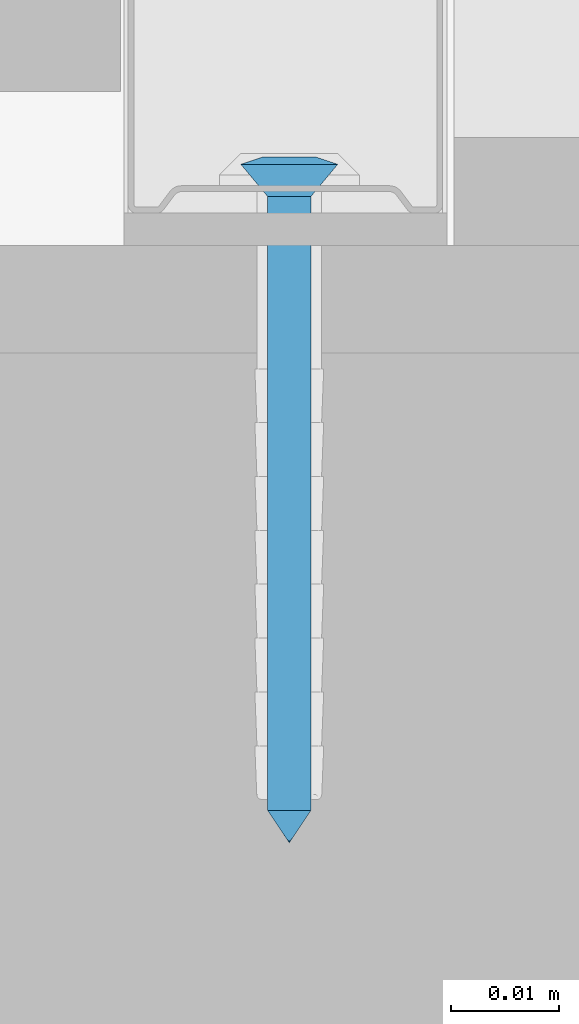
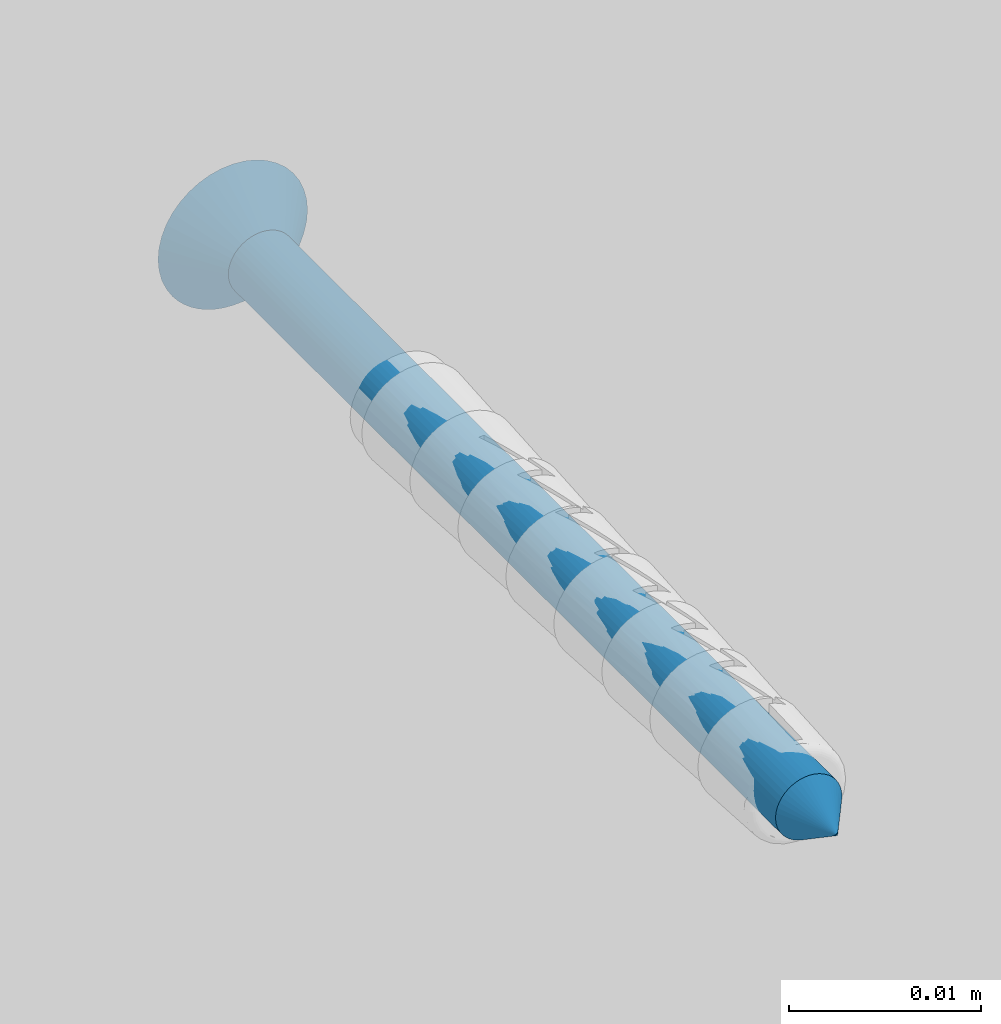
# One storey, part 46 of 67: 1 wall.
"""IFC2X3 building model written with IfcOpenShell, lengths in millimetres."""

from ifc_helpers import new_model, si_unit, frame, origin_with_axes, place, context, subcontext, project, spatial, faceted_brep, material, type_object, element, save


model = new_model("IFC2X3")

# Units and contexts
model_context = context("Model", 3, world=origin_with_axes())
body_context = subcontext(model_context, "Body", "Model", "MODEL_VIEW")
ifc_project = project(units=[si_unit("LENGTHUNIT", "METRE", prefix="MILLI"), si_unit("AREAUNIT", "SQUARE_METRE"), si_unit("VOLUMEUNIT", "CUBIC_METRE")], contexts=[model_context])

# Site, building, storey
site_placement = place(None, frame((2152.14102611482, 674.9749105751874, 57.61556563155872), z_axis=(0.0, 0.0, 1.0), x_axis=(-1.1102230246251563e-16, 1.0, 0.0)))
site = spatial("IfcSite", under=ifc_project, at=site_placement, Name="Default Site", CompositionType="ELEMENT")
building_placement = place(site_placement, origin_with_axes())
building = spatial("IfcBuilding", under=site, at=building_placement, Name="Default Building", CompositionType="ELEMENT")
storey_placement = place(building_placement, origin_with_axes())
storey = spatial("IfcBuildingStorey", under=building, at=storey_placement, Name="Default Building Storey", CompositionType="ELEMENT", Elevation=57.61556563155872)

# Wall
ifc_material = material(Name="Default")
wall_type = type_object("IfcWallType", Name="Kołek rozporowy min. fi 6#12", PredefinedType="NOTDEFINED")
wall_placement = place(storey_placement, frame((2133.025091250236, 522.6571418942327, 4407.209700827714), z_axis=(1.0, -7.610887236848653e-14, -5.637157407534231e-13), x_axis=(-7.61088723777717e-14, -1.0, -1.6471369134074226e-11)))
element("IfcWall", 1, at=wall_placement, inside=storey, type_object=wall_type, material=ifc_material, Name="Kołek rozporowy min. fi 6", context=body_context, shape_type="Brep", body=[
    faceted_brep([(-1438.3141994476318, 3453.2833099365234, -0.46425670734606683), (-1435.8141422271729, 3453.2833099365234, -3.464256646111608), (-1435.7895851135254, 3452.970266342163, -3.464256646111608), (-1438.2587671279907, 3452.579259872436, -0.46425670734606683), (-1435.7162714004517, 3452.6650905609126, -3.464256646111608), (-1438.093900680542, 3451.892614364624, -0.46425670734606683), (-1435.5961084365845, 3452.3751735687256, -3.464256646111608), (-1437.8236532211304, 3451.240301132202, -0.46425670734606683), (-1435.4321956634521, 3452.107667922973, -3.464256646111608), (-1437.4547004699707, 3450.6382942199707, -0.46425670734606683), (-1435.22834777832, 3451.8690109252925, -3.464256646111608), (-1436.9961023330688, 3450.101137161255, -0.46425670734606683), (-1434.9896907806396, 3451.665163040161, -3.464256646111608), (-1436.4591836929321, 3449.642658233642, -0.46425670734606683), (-1434.7221851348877, 3451.501131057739, -3.464256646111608), (-1435.8570575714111, 3449.2735862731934, -0.46425670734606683), (-1434.4321489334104, 3451.381206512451, -3.464256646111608), (-1435.2047443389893, 3449.0034580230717, -0.46425670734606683), (-1434.1269731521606, 3451.307773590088, -3.464256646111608), (-1434.5180988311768, 3448.838710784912, -0.46425670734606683), (-1433.8141679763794, 3451.28321647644, -3.464256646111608), (-1433.8141679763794, 3448.7831592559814, -0.46425670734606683), (-1433.5012435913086, 3451.307773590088, -3.464256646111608), (-1433.110237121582, 3448.838710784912, -0.46425670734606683), (-1433.1960678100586, 3451.381206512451, -3.464256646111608), (-1432.4235916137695, 3449.0034580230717, -0.46425670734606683), (-1432.9061508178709, 3451.501131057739, -3.464256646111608), (-1431.771159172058, 3449.2735862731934, -0.46425670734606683), (-1432.6385259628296, 3451.665163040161, -3.464256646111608), (-1431.1691522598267, 3449.642658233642, -0.46425670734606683), (-1432.3999881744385, 3451.8690109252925, -3.464256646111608), (-1430.6321144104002, 3450.101137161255, -0.46425670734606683), (-1432.1961402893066, 3452.107667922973, -3.464256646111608), (-1430.1735162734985, 3450.6382942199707, -0.46425670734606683), (-1432.0321083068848, 3452.3751735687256, -3.464256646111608), (-1429.8045635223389, 3451.240301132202, -0.46425670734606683), (-1431.9120645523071, 3452.6650905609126, -3.464256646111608), (-1429.5344352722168, 3451.892614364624, -0.46425670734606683), (-1431.8387508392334, 3453.5961151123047, -3.464256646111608), (-1429.369568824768, 3453.9871215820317, -0.46425670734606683), (-1429.314136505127, 3453.2833099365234, -0.46425670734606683), (-1431.814193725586, 3453.2833099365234, -3.464256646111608), (-1429.369568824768, 3452.579259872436, -0.46425670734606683), (-1431.8387508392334, 3452.970266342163, -3.464256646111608), (-1431.9120645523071, 3453.9012908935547, -3.464256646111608), (-1429.5344352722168, 3454.6737670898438, -0.46425670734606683), (-1432.0321083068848, 3454.191207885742, -3.464256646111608), (-1429.8045635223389, 3455.3260803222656, -0.46425670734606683), (-1432.1961402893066, 3454.458713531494, -3.464256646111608), (-1430.1735162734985, 3455.9283256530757, -0.46425670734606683), (-1432.3999881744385, 3454.6973705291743, -3.464256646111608), (-1430.6321144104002, 3456.465244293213, -0.46425670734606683), (-1432.6385259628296, 3454.9012184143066, -3.464256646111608), (-1431.1691522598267, 3456.923723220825, -0.46425670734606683), (-1432.9061508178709, 3455.065250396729, -3.464256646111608), (-1431.771159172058, 3457.2927951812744, -0.46425670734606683), (-1433.1960678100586, 3455.1854133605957, -3.464256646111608), (-1432.4235916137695, 3457.562923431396, -0.46425670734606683), (-1433.5012435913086, 3455.25860786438, -3.464256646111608), (-1433.110237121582, 3457.7279090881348, -0.46425670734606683), (-1433.8141679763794, 3455.283164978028, -3.464256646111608), (-1433.8141679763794, 3457.7832221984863, -0.46425670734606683), (-1434.3430995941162, 3457.7519893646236, -0.46425670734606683), (-1434.1269731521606, 3455.25860786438, -3.464256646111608), (-1434.4321489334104, 3455.1854133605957, -3.464256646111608), (-1434.8646402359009, 3457.6590061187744, -0.46425670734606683), (-1435.3716373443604, 3457.504987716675, -0.46425670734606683), (-1434.7221851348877, 3455.065250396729, -3.464256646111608), (-1435.8570575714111, 3457.2927951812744, -0.46425670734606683), (-1434.9896907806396, 3454.9012184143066, -3.464256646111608), (-1435.22834777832, 3454.6973705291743, -3.464256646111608), (-1436.3142251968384, 3457.024812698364, -0.46425670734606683), (-1436.7367029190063, 3456.705093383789, -0.46425670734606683), (-1437.118649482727, 3456.337928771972, -0.46425670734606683), (-1437.4547004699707, 3455.9283256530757, -0.46425670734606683), (-1435.4321956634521, 3454.458713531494, -3.464256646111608), (-1435.5961084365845, 3454.191207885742, -3.464256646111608), (-1437.8236532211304, 3455.3260803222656, -0.46425670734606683), (-1435.7162714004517, 3453.9012908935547, -3.464256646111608), (-1438.093900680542, 3454.6737670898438, -0.46425670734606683), (-1435.7895851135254, 3453.5961151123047, -3.464256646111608), (-1438.2587671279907, 3453.9871215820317, -0.46425670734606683), (-1434.2052936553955, 3455.752372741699, 0.20073754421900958), (-1433.8141679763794, 3455.7831287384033, 0.20073754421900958), (-1434.5866441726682, 3455.6608200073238, 0.20073754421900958), (-1434.9491596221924, 3455.510854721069, 0.20073754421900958), (-1435.2836608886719, 3455.305814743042, 0.20073754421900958), (-1435.581922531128, 3455.0509452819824, 0.20073754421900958), (-1435.836672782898, 3454.7526836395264, 0.20073754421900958), (-1436.0417127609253, 3454.418182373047, 0.20073754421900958), (-1436.1917972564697, 3454.0557861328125, 0.20073754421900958), (-1436.2833499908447, 3453.6743164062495, 0.20073754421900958), (-1436.3141059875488, 3453.2833099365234, 0.20073754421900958), (-1436.2833499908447, 3452.8920650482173, 0.20073754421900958), (-1436.1917972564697, 3452.5105953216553, 0.20073754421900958), (-1436.0417127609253, 3452.148199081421, 0.20073754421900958), (-1435.836672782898, 3451.8136978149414, 0.20073754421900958), (-1435.581922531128, 3451.5154361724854, 0.20073754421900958), (-1435.2836608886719, 3451.260566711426, 0.20073754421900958), (-1434.9491596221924, 3451.0557651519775, 0.20073754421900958), (-1434.5866441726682, 3450.905561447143, 0.20073754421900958), (-1433.4230422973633, 3450.8140087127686, 0.20073754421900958), (-1433.8141679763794, 3450.7832527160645, 0.20073754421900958), (-1434.2052936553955, 3450.8140087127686, 0.20073754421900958), (-1433.0415725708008, 3450.905561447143, 0.20073754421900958), (-1432.6791763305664, 3451.0557651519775, 0.20073754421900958), (-1432.344675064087, 3451.260566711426, 0.20073754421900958), (-1432.0464134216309, 3451.5154361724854, 0.20073754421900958), (-1431.7916631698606, 3451.8136978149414, 0.20073754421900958), (-1431.5866231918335, 3452.148199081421, 0.20073754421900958), (-1431.436538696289, 3452.5105953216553, 0.20073754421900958), (-1431.344985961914, 3452.8920650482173, 0.20073754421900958), (-1431.3141107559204, 3453.2833099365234, 0.20073754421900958), (-1431.344985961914, 3453.6743164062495, 0.20073754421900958), (-1431.436538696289, 3454.0557861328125, 0.20073754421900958), (-1431.5866231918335, 3454.418182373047, 0.20073754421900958), (-1431.7916631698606, 3454.7526836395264, 0.20073754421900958), (-1432.0464134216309, 3455.0509452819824, 0.20073754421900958), (-1432.344675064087, 3455.305814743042, 0.20073754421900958), (-1432.6791763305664, 3455.510854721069, 0.20073754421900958), (-1433.0415725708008, 3455.6608200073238, 0.20073754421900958), (-1433.4230422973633, 3455.752372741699, 0.20073754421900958), (-1433.8141679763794, 3453.2833099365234, -63.46425414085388), (-1435.7895851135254, 3452.970266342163, -60.464255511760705), (-1435.8141422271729, 3453.2833099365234, -60.464255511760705), (-1435.7162714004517, 3452.6650905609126, -60.464255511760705), (-1435.5961084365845, 3452.3751735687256, -60.464255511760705), (-1435.4321956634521, 3452.107667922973, -60.464255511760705), (-1435.22834777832, 3451.8690109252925, -60.464255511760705), (-1434.9896907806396, 3451.665163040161, -60.464255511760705), (-1434.7221851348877, 3451.501131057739, -60.464255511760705), (-1434.4321489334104, 3451.381206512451, -60.464255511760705), (-1434.1269731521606, 3451.307773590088, -60.464255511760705), (-1433.8141679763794, 3451.28321647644, -60.464255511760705), (-1433.5012435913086, 3451.307773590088, -60.464255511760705), (-1433.1960678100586, 3451.381206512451, -60.464255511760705), (-1432.9061508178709, 3451.501131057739, -60.464255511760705), (-1432.6385259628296, 3451.665163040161, -60.464255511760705), (-1432.3999881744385, 3451.8690109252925, -60.464255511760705), (-1432.1961402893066, 3452.107667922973, -60.464255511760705), (-1432.0321083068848, 3452.3751735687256, -60.464255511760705), (-1431.9120645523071, 3452.6650905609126, -60.464255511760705), (-1431.8387508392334, 3452.970266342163, -60.464255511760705), (-1431.814193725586, 3453.2833099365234, -60.464255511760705), (-1431.8387508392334, 3453.5961151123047, -60.464255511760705), (-1431.9120645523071, 3453.9012908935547, -60.464255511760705), (-1432.0321083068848, 3454.191207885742, -60.464255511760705), (-1432.1961402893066, 3454.458713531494, -60.464255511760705), (-1432.3999881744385, 3454.6973705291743, -60.464255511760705), (-1432.6385259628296, 3454.9012184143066, -60.464255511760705), (-1432.9061508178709, 3455.065250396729, -60.464255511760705), (-1433.1960678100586, 3455.1854133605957, -60.464255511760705), (-1433.5012435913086, 3455.25860786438, -60.464255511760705), (-1433.8141679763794, 3455.283164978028, -60.464255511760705), (-1434.1269731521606, 3455.25860786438, -60.464255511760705), (-1434.4321489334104, 3455.1854133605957, -60.464255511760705), (-1434.7221851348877, 3455.065250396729, -60.464255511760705), (-1434.9896907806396, 3454.9012184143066, -60.464255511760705), (-1435.22834777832, 3454.6973705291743, -60.464255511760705), (-1435.4321956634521, 3454.458713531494, -60.464255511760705), (-1435.5961084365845, 3454.191207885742, -60.464255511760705), (-1435.7162714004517, 3453.9012908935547, -60.464255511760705), (-1435.7895851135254, 3453.5961151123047, -60.464255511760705), (-1436.0417127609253, 3454.418182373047, 0.049999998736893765), (-1436.1917972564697, 3454.0557861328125, 0.049999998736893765), (-1436.2833499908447, 3453.6743164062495, 0.049999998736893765), (-1436.3141059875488, 3453.2833099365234, 0.049999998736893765), (-1436.2833499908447, 3452.8920650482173, 0.049999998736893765), (-1436.1917972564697, 3452.5105953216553, 0.049999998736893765), (-1436.0417127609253, 3452.148199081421, 0.049999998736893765), (-1435.836672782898, 3451.8136978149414, 0.049999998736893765), (-1435.581922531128, 3451.5154361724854, 0.049999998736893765), (-1435.2836608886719, 3451.260566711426, 0.049999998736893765), (-1434.9491596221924, 3451.0557651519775, 0.049999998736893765), (-1434.5866441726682, 3450.905561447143, 0.049999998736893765), (-1434.2052936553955, 3450.8140087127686, 0.049999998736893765), (-1433.8141679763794, 3450.7832527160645, 0.049999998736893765), (-1433.4230422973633, 3450.8140087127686, 0.049999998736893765), (-1433.0415725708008, 3450.905561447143, 0.049999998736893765), (-1432.6791763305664, 3451.0557651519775, 0.049999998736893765), (-1432.344675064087, 3451.260566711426, 0.049999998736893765), (-1432.0464134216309, 3451.5154361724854, 0.049999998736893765), (-1431.7916631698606, 3451.8136978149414, 0.049999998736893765), (-1431.5866231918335, 3452.148199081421, 0.049999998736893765), (-1431.436538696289, 3452.5105953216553, 0.049999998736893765), (-1431.344985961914, 3452.8920650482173, 0.049999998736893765), (-1431.3141107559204, 3453.2833099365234, 0.049999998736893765), (-1431.344985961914, 3453.6743164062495, 0.049999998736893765), (-1431.436538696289, 3454.0557861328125, 0.049999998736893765), (-1431.5866231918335, 3454.418182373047, 0.049999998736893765), (-1431.7916631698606, 3454.7526836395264, 0.049999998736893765), (-1432.0464134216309, 3455.0509452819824, 0.049999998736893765), (-1432.344675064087, 3455.305814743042, 0.049999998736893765), (-1432.6791763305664, 3455.510854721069, 0.049999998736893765), (-1433.0415725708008, 3455.6608200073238, 0.049999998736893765), (-1433.4230422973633, 3455.752372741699, 0.049999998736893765), (-1433.8141679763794, 3455.7831287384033, 0.049999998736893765), (-1434.2052936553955, 3455.752372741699, 0.049999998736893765), (-1434.5866441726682, 3455.6608200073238, 0.049999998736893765), (-1434.9491596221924, 3455.510854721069, 0.049999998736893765), (-1435.2836608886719, 3455.305814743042, 0.049999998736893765), (-1435.581922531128, 3455.0509452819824, 0.049999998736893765), (-1435.836672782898, 3454.7526836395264, 0.049999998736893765), (-1434.3141317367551, 3452.7831077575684, 0.049999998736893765), (-1435.8141422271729, 3452.7831077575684, 0.049999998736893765), (-1435.8141422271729, 3453.7832736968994, 0.049999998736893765), (-1434.3141317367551, 3453.7832736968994, 0.049999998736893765), (-1434.3141317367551, 3455.283164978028, 0.049999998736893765), (-1433.3142042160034, 3455.283164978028, 0.049999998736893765), (-1433.3142042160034, 3453.7832736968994, 0.049999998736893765), (-1431.814193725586, 3453.7832736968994, 0.049999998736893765), (-1431.814193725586, 3452.7831077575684, 0.049999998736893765), (-1433.3142042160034, 3452.7831077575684, 0.049999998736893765), (-1433.3142042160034, 3451.28321647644, 0.049999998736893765), (-1434.3141317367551, 3451.28321647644, 0.049999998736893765), (-1434.3141317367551, 3452.7831077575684, -1.799262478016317), (-1434.3141317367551, 3451.28321647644, -1.799262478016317), (-1433.3142042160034, 3451.28321647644, -1.799262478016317), (-1433.3142042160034, 3452.7831077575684, -1.799262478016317), (-1431.814193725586, 3452.7831077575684, -1.799262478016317), (-1431.814193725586, 3453.7832736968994, -1.799262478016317), (-1433.3142042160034, 3453.7832736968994, -1.799262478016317), (-1433.3142042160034, 3455.283164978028, -1.799262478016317), (-1434.3141317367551, 3455.283164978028, -1.799262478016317), (-1434.3141317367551, 3453.7832736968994, -1.799262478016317), (-1435.8141422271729, 3453.7832736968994, -1.799262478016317), (-1435.8141422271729, 3452.7831077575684, -1.799262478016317)], [[[0, 1, 2, 3]], [[4, 5, 3, 2]], [[6, 7, 5, 4]], [[7, 6, 8, 9]], [[10, 11, 9, 8]], [[11, 10, 12, 13]], [[14, 15, 13, 12]], [[16, 17, 15, 14]], [[17, 16, 18, 19]], [[20, 21, 19, 18]], [[21, 20, 22, 23]], [[24, 25, 23, 22]], [[26, 27, 25, 24]], [[27, 26, 28, 29]], [[30, 31, 29, 28]], [[31, 30, 32, 33]], [[34, 35, 33, 32]], [[36, 37, 35, 34]], [[38, 39, 40, 41]], [[41, 40, 42, 43]], [[37, 36, 43, 42]], [[44, 45, 39, 38]], [[46, 47, 45, 44]], [[47, 46, 48, 49]], [[50, 51, 49, 48]], [[51, 50, 52, 53]], [[54, 55, 53, 52]], [[56, 57, 55, 54]], [[57, 56, 58, 59]], [[60, 61, 59, 58]], [[62, 61, 63]], [[61, 60, 63]], [[63, 64, 62]], [[64, 65, 62]], [[66, 65, 64]], [[64, 67, 66]], [[67, 68, 66]], [[69, 70, 71]], [[70, 72, 71]], [[71, 68, 69]], [[68, 67, 69]], [[70, 73, 72]], [[74, 73, 75]], [[73, 70, 75]], [[76, 77, 74, 75]], [[78, 79, 77, 76]], [[79, 78, 80, 81]], [[1, 0, 81, 80]], [[82, 83, 62]], [[83, 61, 62]], [[62, 65, 82]], [[65, 84, 82]], [[66, 68, 84]], [[68, 85, 84]], [[84, 65, 66]], [[86, 85, 71]], [[85, 68, 71]], [[72, 73, 87]], [[87, 86, 72]], [[86, 71, 72]], [[88, 87, 74]], [[87, 73, 74]], [[77, 89, 88, 74]], [[79, 90, 89, 77]], [[90, 79, 81, 91]], [[0, 92, 91, 81]], [[92, 0, 3, 93]], [[5, 94, 93, 3]], [[7, 95, 94, 5]], [[95, 7, 9, 96]], [[11, 97, 96, 9]], [[97, 11, 13, 98]], [[15, 99, 98, 13]], [[17, 100, 99, 15]], [[23, 101, 102, 21]], [[21, 102, 103, 19]], [[100, 17, 19, 103]], [[25, 104, 101, 23]], [[27, 105, 104, 25]], [[105, 27, 29, 106]], [[31, 107, 106, 29]], [[107, 31, 33, 108]], [[35, 109, 108, 33]], [[37, 110, 109, 35]], [[110, 37, 42, 111]], [[40, 112, 111, 42]], [[112, 40, 39, 113]], [[45, 114, 113, 39]], [[47, 115, 114, 45]], [[115, 47, 49, 116]], [[51, 117, 116, 49]], [[117, 51, 53, 118]], [[55, 119, 118, 53]], [[57, 120, 119, 55]], [[120, 57, 59, 121]], [[61, 83, 121, 59]], [[122, 123, 124]], [[122, 125, 123]], [[122, 126, 125]], [[127, 126, 122]], [[122, 128, 127]], [[129, 128, 122]], [[122, 130, 129]], [[122, 131, 130]], [[132, 131, 122]], [[122, 133, 132]], [[134, 133, 122]], [[122, 135, 134]], [[122, 136, 135]], [[137, 136, 122]], [[122, 138, 137]], [[139, 138, 122]], [[122, 140, 139]], [[122, 141, 140]], [[142, 141, 122]], [[122, 143, 142]], [[144, 143, 122]], [[122, 145, 144]], [[122, 146, 145]], [[147, 146, 122]], [[122, 148, 147]], [[149, 148, 122]], [[122, 150, 149]], [[122, 151, 150]], [[152, 151, 122]], [[122, 153, 152]], [[154, 153, 122]], [[122, 155, 154]], [[122, 156, 155]], [[157, 156, 122]], [[122, 158, 157]], [[159, 158, 122]], [[122, 160, 159]], [[122, 161, 160]], [[162, 161, 122]], [[124, 162, 122]], [[1, 124, 123, 2]], [[125, 4, 2, 123]], [[126, 6, 4, 125]], [[6, 126, 127, 8]], [[128, 10, 8, 127]], [[10, 128, 129, 12]], [[130, 14, 12, 129]], [[131, 16, 14, 130]], [[16, 131, 132, 18]], [[133, 20, 18, 132]], [[20, 133, 134, 22]], [[135, 24, 22, 134]], [[136, 26, 24, 135]], [[26, 136, 137, 28]], [[138, 30, 28, 137]], [[30, 138, 139, 32]], [[140, 34, 32, 139]], [[141, 36, 34, 140]], [[144, 38, 41, 143]], [[143, 41, 43, 142]], [[36, 141, 142, 43]], [[145, 44, 38, 144]], [[146, 46, 44, 145]], [[46, 146, 147, 48]], [[148, 50, 48, 147]], [[50, 148, 149, 52]], [[150, 54, 52, 149]], [[151, 56, 54, 150]], [[56, 151, 152, 58]], [[153, 60, 58, 152]], [[60, 153, 154, 63]], [[155, 64, 63, 154]], [[156, 67, 64, 155]], [[67, 156, 157, 69]], [[158, 70, 69, 157]], [[70, 158, 159, 75]], [[160, 76, 75, 159]], [[161, 78, 76, 160]], [[78, 161, 162, 80]], [[124, 1, 80, 162]], [[163, 164, 165, 166, 167, 168, 169, 170, 171, 172, 173, 174, 175, 176, 177, 178, 179, 180, 181, 182, 183, 184, 185, 186, 187, 188, 189, 190, 191, 192, 193, 194, 195, 196, 197, 198, 199, 200, 201, 202], [203, 204, 205, 206, 207, 208, 209, 210, 211, 212, 213, 214]], [[187, 186, 112, 113]], [[113, 114, 188, 187]], [[114, 115, 189, 188]], [[190, 189, 115, 116]], [[116, 117, 191, 190]], [[192, 191, 117, 118]], [[118, 119, 193, 192]], [[119, 120, 194, 193]], [[195, 194, 120, 121]], [[121, 83, 196, 195]], [[197, 196, 83, 82]], [[82, 84, 198, 197]], [[84, 85, 199, 198]], [[200, 199, 85, 86]], [[86, 87, 201, 200]], [[202, 201, 87, 88]], [[88, 89, 163, 202]], [[89, 90, 164, 163]], [[92, 93, 167, 166]], [[91, 92, 166, 165]], [[165, 164, 90, 91]], [[93, 94, 168, 167]], [[94, 95, 169, 168]], [[170, 169, 95, 96]], [[96, 97, 171, 170]], [[172, 171, 97, 98]], [[98, 99, 173, 172]], [[99, 100, 174, 173]], [[175, 174, 100, 103]], [[103, 102, 176, 175]], [[177, 176, 102, 101]], [[101, 104, 178, 177]], [[104, 105, 179, 178]], [[180, 179, 105, 106]], [[106, 107, 181, 180]], [[182, 181, 107, 108]], [[108, 109, 183, 182]], [[109, 110, 184, 183]], [[185, 184, 110, 111]], [[111, 112, 186, 185]], [[215, 216, 217, 218, 219, 220, 221, 222, 223, 224, 225, 226]], [[216, 214, 213, 217]], [[215, 203, 214, 216]], [[226, 204, 203, 215]], [[225, 205, 204, 226]], [[224, 206, 205, 225]], [[223, 207, 206, 224]], [[222, 208, 207, 223]], [[221, 209, 208, 222]], [[220, 210, 209, 221]], [[219, 211, 210, 220]], [[218, 212, 211, 219]], [[217, 213, 212, 218]]]),
])

save(model, "model.ifc")
